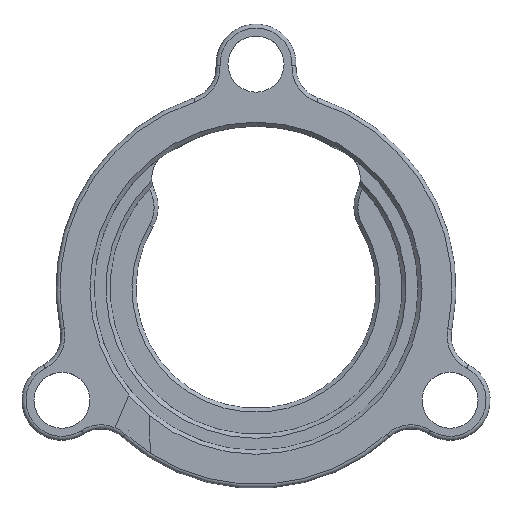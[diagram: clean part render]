
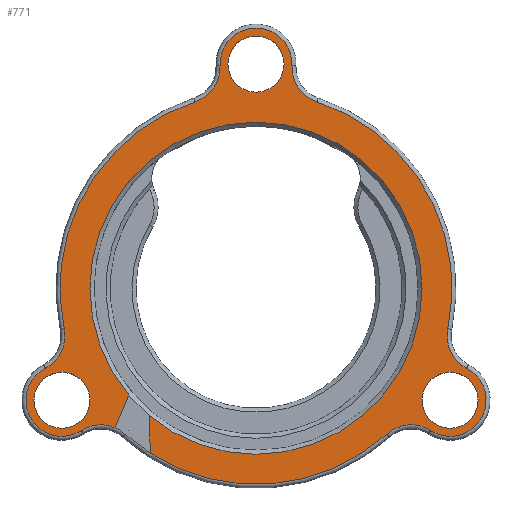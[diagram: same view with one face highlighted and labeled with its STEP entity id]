
A CAD part, top view. The second image highlights one B-rep face of the part: STEP entity #771.
In plain terms, the highlighted planar face has unit normal (0, 0, 1).
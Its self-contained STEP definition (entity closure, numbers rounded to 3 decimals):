
#28=FACE_BOUND('',#128,.T.);
#29=FACE_BOUND('',#129,.T.);
#30=FACE_BOUND('',#130,.T.);
#31=FACE_BOUND('',#131,.T.);
#32=FACE_BOUND('',#132,.T.);
#37=PLANE('',#859);
#79=FACE_OUTER_BOUND('',#127,.T.);
#127=EDGE_LOOP('',(#582,#583,#584,#585,#586,#587,#588,#589,#590,#591,#592,
#593));
#128=EDGE_LOOP('',(#594));
#129=EDGE_LOOP('',(#595));
#130=EDGE_LOOP('',(#596));
#131=EDGE_LOOP('',(#597,#598));
#132=EDGE_LOOP('',(#599));
#250=CIRCLE('',#852,10.375);
#256=CIRCLE('',#860,2.25);
#257=CIRCLE('',#861,12.25);
#258=CIRCLE('',#862,2.25);
#259=CIRCLE('',#863,2.25);
#260=CIRCLE('',#864,2.25);
#261=CIRCLE('',#865,12.25);
#262=CIRCLE('',#866,2.25);
#263=CIRCLE('',#867,2.25);
#264=CIRCLE('',#868,2.25);
#265=CIRCLE('',#869,12.25);
#266=CIRCLE('',#870,2.25);
#267=CIRCLE('',#871,2.25);
#268=CIRCLE('',#872,1.75);
#269=CIRCLE('',#873,1.75);
#270=CIRCLE('',#874,1.75);
#271=CIRCLE('',#875,11.927);
#316=B_SPLINE_CURVE_WITH_KNOTS('',2,(#1371,#1372,#1373),.UNSPECIFIED.,.F.,
 .F.,(3,3),(0.985,1.),.UNSPECIFIED.);
#343=VERTEX_POINT('',#1324);
#347=VERTEX_POINT('',#1338);
#348=VERTEX_POINT('',#1339);
#349=VERTEX_POINT('',#1341);
#350=VERTEX_POINT('',#1343);
#351=VERTEX_POINT('',#1345);
#352=VERTEX_POINT('',#1347);
#353=VERTEX_POINT('',#1349);
#354=VERTEX_POINT('',#1351);
#355=VERTEX_POINT('',#1353);
#356=VERTEX_POINT('',#1355);
#357=VERTEX_POINT('',#1357);
#358=VERTEX_POINT('',#1359);
#359=VERTEX_POINT('',#1362);
#360=VERTEX_POINT('',#1364);
#361=VERTEX_POINT('',#1366);
#362=VERTEX_POINT('',#1368);
#363=VERTEX_POINT('',#1369);
#429=EDGE_CURVE('',#343,#343,#250,.T.);
#437=EDGE_CURVE('',#347,#348,#256,.T.);
#438=EDGE_CURVE('',#349,#347,#257,.T.);
#439=EDGE_CURVE('',#350,#349,#258,.T.);
#440=EDGE_CURVE('',#351,#350,#259,.T.);
#441=EDGE_CURVE('',#352,#351,#260,.T.);
#442=EDGE_CURVE('',#353,#352,#261,.T.);
#443=EDGE_CURVE('',#354,#353,#262,.T.);
#444=EDGE_CURVE('',#355,#354,#263,.T.);
#445=EDGE_CURVE('',#356,#355,#264,.T.);
#446=EDGE_CURVE('',#357,#356,#265,.T.);
#447=EDGE_CURVE('',#358,#357,#266,.T.);
#448=EDGE_CURVE('',#348,#358,#267,.T.);
#449=EDGE_CURVE('',#359,#359,#268,.T.);
#450=EDGE_CURVE('',#360,#360,#269,.T.);
#451=EDGE_CURVE('',#361,#361,#270,.T.);
#452=EDGE_CURVE('',#362,#363,#271,.T.);
#453=EDGE_CURVE('',#363,#362,#316,.T.);
#582=ORIENTED_EDGE('',*,*,#437,.F.);
#583=ORIENTED_EDGE('',*,*,#438,.F.);
#584=ORIENTED_EDGE('',*,*,#439,.F.);
#585=ORIENTED_EDGE('',*,*,#440,.F.);
#586=ORIENTED_EDGE('',*,*,#441,.F.);
#587=ORIENTED_EDGE('',*,*,#442,.F.);
#588=ORIENTED_EDGE('',*,*,#443,.F.);
#589=ORIENTED_EDGE('',*,*,#444,.F.);
#590=ORIENTED_EDGE('',*,*,#445,.F.);
#591=ORIENTED_EDGE('',*,*,#446,.F.);
#592=ORIENTED_EDGE('',*,*,#447,.F.);
#593=ORIENTED_EDGE('',*,*,#448,.F.);
#594=ORIENTED_EDGE('',*,*,#449,.T.);
#595=ORIENTED_EDGE('',*,*,#450,.T.);
#596=ORIENTED_EDGE('',*,*,#451,.T.);
#597=ORIENTED_EDGE('',*,*,#452,.T.);
#598=ORIENTED_EDGE('',*,*,#453,.T.);
#599=ORIENTED_EDGE('',*,*,#429,.F.);
#771=ADVANCED_FACE('',(#79,#28,#29,#30,#31,#32),#37,.T.);
#852=AXIS2_PLACEMENT_3D('',#1325,#1028,#1029);
#859=AXIS2_PLACEMENT_3D('',#1337,#1044,#1045);
#860=AXIS2_PLACEMENT_3D('',#1340,#1046,#1047);
#861=AXIS2_PLACEMENT_3D('',#1342,#1048,#1049);
#862=AXIS2_PLACEMENT_3D('',#1344,#1050,#1051);
#863=AXIS2_PLACEMENT_3D('',#1346,#1052,#1053);
#864=AXIS2_PLACEMENT_3D('',#1348,#1054,#1055);
#865=AXIS2_PLACEMENT_3D('',#1350,#1056,#1057);
#866=AXIS2_PLACEMENT_3D('',#1352,#1058,#1059);
#867=AXIS2_PLACEMENT_3D('',#1354,#1060,#1061);
#868=AXIS2_PLACEMENT_3D('',#1356,#1062,#1063);
#869=AXIS2_PLACEMENT_3D('',#1358,#1064,#1065);
#870=AXIS2_PLACEMENT_3D('',#1360,#1066,#1067);
#871=AXIS2_PLACEMENT_3D('',#1361,#1068,#1069);
#872=AXIS2_PLACEMENT_3D('',#1363,#1070,#1071);
#873=AXIS2_PLACEMENT_3D('',#1365,#1072,#1073);
#874=AXIS2_PLACEMENT_3D('',#1367,#1074,#1075);
#875=AXIS2_PLACEMENT_3D('',#1370,#1076,#1077);
#1028=DIRECTION('center_axis',(0.,0.,1.));
#1029=DIRECTION('ref_axis',(1.,0.,0.));
#1044=DIRECTION('center_axis',(0.,0.,1.));
#1045=DIRECTION('ref_axis',(-1.,0.,0.));
#1046=DIRECTION('center_axis',(0.,0.,1.));
#1047=DIRECTION('ref_axis',(0.823,-0.568,0.));
#1048=DIRECTION('center_axis',(0.,0.,-1.));
#1049=DIRECTION('ref_axis',(-0.866,0.5,0.));
#1050=DIRECTION('center_axis',(0.,0.,1.));
#1051=DIRECTION('ref_axis',(0.903,-0.429,0.));
#1052=DIRECTION('center_axis',(0.,0.,-1.));
#1053=DIRECTION('ref_axis',(-0.866,-0.5,0.));
#1054=DIRECTION('center_axis',(0.,0.,1.));
#1055=DIRECTION('ref_axis',(0.08,0.997,0.));
#1056=DIRECTION('center_axis',(0.,0.,-1.));
#1057=DIRECTION('ref_axis',(0.,-1.,0.));
#1058=DIRECTION('center_axis',(0.,0.,1.));
#1059=DIRECTION('ref_axis',(-0.08,0.997,0.));
#1060=DIRECTION('center_axis',(0.,0.,-1.));
#1061=DIRECTION('ref_axis',(0.866,-0.5,0.));
#1062=DIRECTION('center_axis',(0.,0.,1.));
#1063=DIRECTION('ref_axis',(-0.903,-0.429,0.));
#1064=DIRECTION('center_axis',(0.,0.,-1.));
#1065=DIRECTION('ref_axis',(0.866,0.5,0.));
#1066=DIRECTION('center_axis',(0.,0.,1.));
#1067=DIRECTION('ref_axis',(-0.823,-0.568,0.));
#1068=DIRECTION('center_axis',(0.,0.,-1.));
#1069=DIRECTION('ref_axis',(0.,1.,0.));
#1070=DIRECTION('center_axis',(0.,0.,-1.));
#1071=DIRECTION('ref_axis',(1.,0.,0.));
#1072=DIRECTION('center_axis',(0.,0.,-1.));
#1073=DIRECTION('ref_axis',(-0.5,0.866,0.));
#1074=DIRECTION('center_axis',(0.,0.,-1.));
#1075=DIRECTION('ref_axis',(-0.5,-0.866,0.));
#1076=DIRECTION('center_axis',(0.,0.,1.));
#1077=DIRECTION('ref_axis',(-1.,0.,0.));
#1324=CARTESIAN_POINT('',(-10.375,0.,2.5));
#1325=CARTESIAN_POINT('Origin',(0.,0.,2.5));
#1337=CARTESIAN_POINT('Origin',(0.,0.,2.5));
#1338=CARTESIAN_POINT('',(-3.797,11.647,2.5));
#1339=CARTESIAN_POINT('',(-2.247,13.893,2.5));
#1340=CARTESIAN_POINT('Origin',(-4.495,13.786,2.5));
#1341=CARTESIAN_POINT('',(-11.985,-2.535,2.5));
#1342=CARTESIAN_POINT('Origin',(0.,0.,2.5));
#1343=CARTESIAN_POINT('',(-13.155,-5.,2.5));
#1344=CARTESIAN_POINT('Origin',(-14.186,-3.,2.5));
#1345=CARTESIAN_POINT('',(-10.908,-8.893,2.5));
#1346=CARTESIAN_POINT('Origin',(-12.124,-7.,2.5));
#1347=CARTESIAN_POINT('',(-8.188,-9.112,2.5));
#1348=CARTESIAN_POINT('Origin',(-9.691,-10.786,2.5));
#1349=CARTESIAN_POINT('',(8.188,-9.112,2.5));
#1350=CARTESIAN_POINT('Origin',(0.,0.,2.5));
#1351=CARTESIAN_POINT('',(10.908,-8.893,2.5));
#1352=CARTESIAN_POINT('Origin',(9.691,-10.786,2.5));
#1353=CARTESIAN_POINT('',(13.155,-5.,2.5));
#1354=CARTESIAN_POINT('Origin',(12.124,-7.,2.5));
#1355=CARTESIAN_POINT('',(11.985,-2.535,2.5));
#1356=CARTESIAN_POINT('Origin',(14.186,-3.,2.5));
#1357=CARTESIAN_POINT('',(3.797,11.647,2.5));
#1358=CARTESIAN_POINT('Origin',(0.,0.,2.5));
#1359=CARTESIAN_POINT('',(2.247,13.893,2.5));
#1360=CARTESIAN_POINT('Origin',(4.495,13.786,2.5));
#1361=CARTESIAN_POINT('Origin',(0.,14.,2.5));
#1362=CARTESIAN_POINT('',(-1.75,14.,2.5));
#1363=CARTESIAN_POINT('Origin',(0.,14.,2.5));
#1364=CARTESIAN_POINT('',(-11.249,-8.516,2.5));
#1365=CARTESIAN_POINT('Origin',(-12.124,-7.,2.5));
#1366=CARTESIAN_POINT('',(12.999,-5.484,2.5));
#1367=CARTESIAN_POINT('Origin',(12.124,-7.,2.5));
#1368=CARTESIAN_POINT('',(-7.951,-8.891,2.5));
#1369=CARTESIAN_POINT('',(-7.941,-8.9,2.5));
#1370=CARTESIAN_POINT('Origin',(0.,0.,
2.5));
#1371=CARTESIAN_POINT('Ctrl Pts',(-7.941,-8.9,2.5));
#1372=CARTESIAN_POINT('Ctrl Pts',(-7.946,-8.895,2.5));
#1373=CARTESIAN_POINT('Ctrl Pts',(-7.951,-8.891,2.5));
